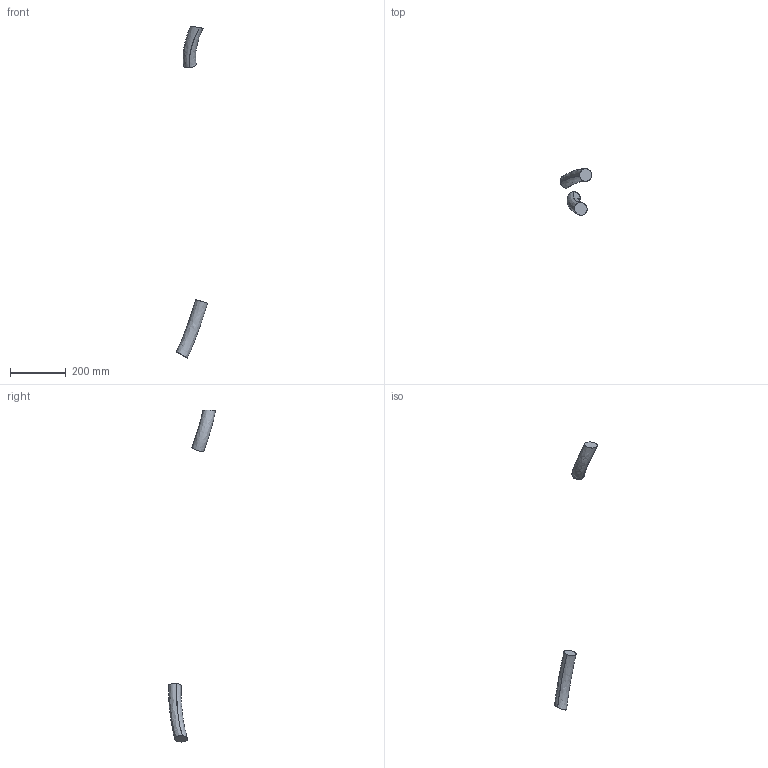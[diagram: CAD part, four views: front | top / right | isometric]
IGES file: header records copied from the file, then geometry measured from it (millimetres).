
Start section: SolidWorks IGES file using analytic representation for surfaces
Global section: file name: C:\Users\seamsto1\Desktop\Lättvikt\IRB6710_210kg-265_OC_00_SW_J\IRB6710_210kg-265_OC_00_IGES_J\IRB6710_210kg-265_OC_00_LINK02m_CABLE.IGS; native system: SolidWorks 2020; preprocessor: SolidWorks 2020; author: SEAMSTO1; date: 230510.112954; units: millimetre
Bounding box: 112.64 x 168.91 x 1192.16 mm (x, y, z)
Surface area: 56623.2 mm2 (no closed solid volume)
Topology: 0 solids, 0 shells, 8 faces, 365 edges, 365 vertices
Faces by surface type: bspline 8
